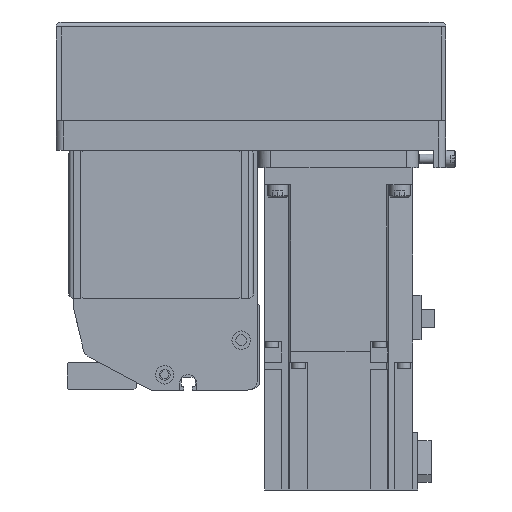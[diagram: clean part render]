
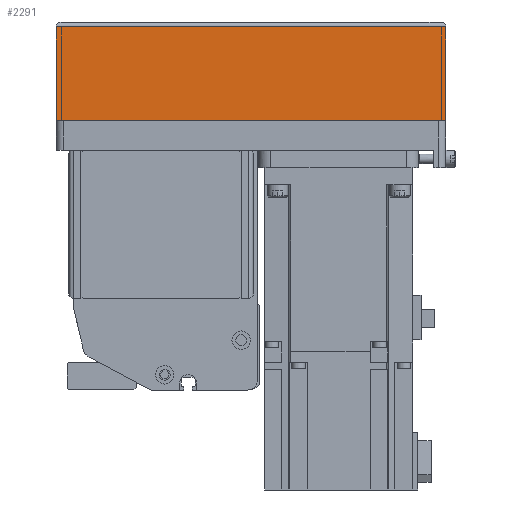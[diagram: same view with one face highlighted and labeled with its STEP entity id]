
A CAD part, left-side view. The second image highlights one B-rep face of the part: STEP entity #2291.
In plain terms, the highlighted planar face has unit normal (-1, 0, 0) as drawn and (0, -1, 0) by its records, which use the part's own axes.
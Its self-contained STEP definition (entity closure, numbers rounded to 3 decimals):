
#2291 = ADVANCED_FACE( '', ( #5099 ), #5100, .T. );
#5099 = FACE_OUTER_BOUND( '', #8406, .T. );
#5100 = PLANE( '', #8407 );
#8406 = EDGE_LOOP( '', ( #14880, #14881, #14882, #14883 ) );
#8407 = AXIS2_PLACEMENT_3D( '', #14884, #14885, #14886 );
#14880 = ORIENTED_EDGE( '', *, *, #21221, .F. );
#14881 = ORIENTED_EDGE( '', *, *, #19634, .F. );
#14882 = ORIENTED_EDGE( '', *, *, #18937, .T. );
#14883 = ORIENTED_EDGE( '', *, *, #21222, .T. );
#14884 = CARTESIAN_POINT( '', ( -158., -39., -12.1 ) );
#14885 = DIRECTION( '', ( 0., -1., 0. ) );
#14886 = DIRECTION( '', ( 0., 0., -1. ) );
#18937 = EDGE_CURVE( '', #22573, #22577, #22579, .T. );
#19634 = EDGE_CURVE( '', #22573, #23774, #23775, .T. );
#21221 = EDGE_CURVE( '', #23774, #24144, #26180, .T. );
#21222 = EDGE_CURVE( '', #22577, #24144, #26181, .T. );
#22573 = VERTEX_POINT( '', #27894 );
#22577 = VERTEX_POINT( '', #27900 );
#22579 = LINE( '', #27903, #27904 );
#23774 = VERTEX_POINT( '', #29654 );
#23775 = LINE( '', #29655, #29656 );
#24144 = VERTEX_POINT( '', #30267 );
#26180 = LINE( '', #33443, #33444 );
#26181 = LINE( '', #33445, #33446 );
#27894 = CARTESIAN_POINT( '', ( -158., -39., -12.1 ) );
#27900 = CARTESIAN_POINT( '', ( -158., -39., -50. ) );
#27903 = CARTESIAN_POINT( '', ( -158., -39., -12.1 ) );
#27904 = VECTOR( '', #35187, 1000. );
#29654 = CARTESIAN_POINT( '', ( 0., -39., -12.1 ) );
#29655 = CARTESIAN_POINT( '', ( -158., -39., -12.1 ) );
#29656 = VECTOR( '', #36110, 1000. );
#30267 = CARTESIAN_POINT( '', ( 0., -39., -50. ) );
#33443 = CARTESIAN_POINT( '', ( 0., -39., -12.1 ) );
#33444 = VECTOR( '', #38050, 1000. );
#33445 = CARTESIAN_POINT( '', ( -158., -39., -50. ) );
#33446 = VECTOR( '', #38051, 1000. );
#35187 = DIRECTION( '', ( 0., 0., -1. ) );
#36110 = DIRECTION( '', ( 1., 0., 0. ) );
#38050 = DIRECTION( '', ( 0., 0., -1. ) );
#38051 = DIRECTION( '', ( 1., 0., 0. ) );
